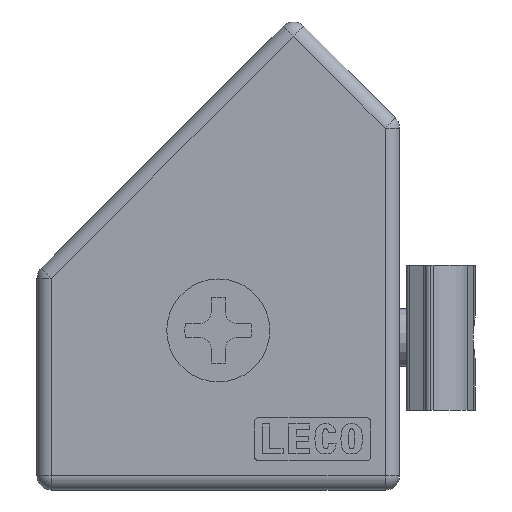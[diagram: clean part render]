
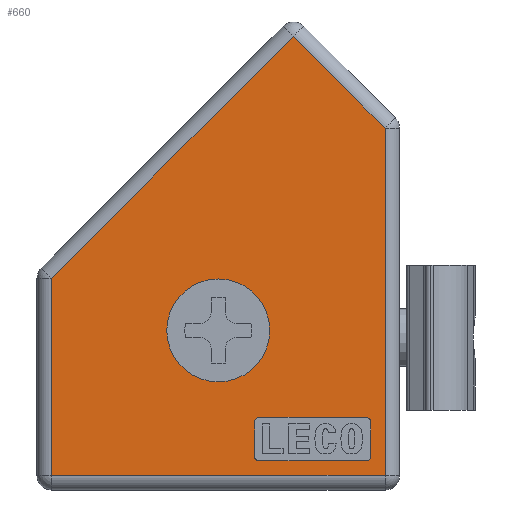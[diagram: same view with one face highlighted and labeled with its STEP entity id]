
A CAD part, front view. The second image highlights one B-rep face of the part: STEP entity #660.
In plain terms, the highlighted planar face has unit normal (0, -1, 0) as drawn and (0, 0, 1) by its records, which use the part's own axes.
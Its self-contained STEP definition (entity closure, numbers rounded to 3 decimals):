
#660=ADVANCED_FACE('',(#1543,#1544,#1545),#1546,.T.);
#1543=FACE_OUTER_BOUND('',#2706,.T.);
#1544=FACE_BOUND('',#2707,.T.);
#1545=FACE_BOUND('',#2708,.T.);
#1546=PLANE('',#2709);
#2706=EDGE_LOOP('',(#4372,#4373,#4374,#4375,#4376));
#2707=EDGE_LOOP('',(#4377));
#2708=EDGE_LOOP('',(#4378,#4379,#4380,#4381,#4382,#4383,#4384,#4385));
#2709=AXIS2_PLACEMENT_3D('',#4386,#4387,#4388);
#4372=ORIENTED_EDGE('',*,*,#7548,.T.);
#4373=ORIENTED_EDGE('',*,*,#7549,.T.);
#4374=ORIENTED_EDGE('',*,*,#7265,.T.);
#4375=ORIENTED_EDGE('',*,*,#7550,.T.);
#4376=ORIENTED_EDGE('',*,*,#7247,.T.);
#4377=ORIENTED_EDGE('',*,*,#7166,.F.);
#4378=ORIENTED_EDGE('',*,*,#7551,.F.);
#4379=ORIENTED_EDGE('',*,*,#7552,.F.);
#4380=ORIENTED_EDGE('',*,*,#7553,.F.);
#4381=ORIENTED_EDGE('',*,*,#7184,.F.);
#4382=ORIENTED_EDGE('',*,*,#7554,.F.);
#4383=ORIENTED_EDGE('',*,*,#7555,.F.);
#4384=ORIENTED_EDGE('',*,*,#7556,.F.);
#4385=ORIENTED_EDGE('',*,*,#7380,.F.);
#4386=CARTESIAN_POINT('',(0.0,0.0,3.0));
#4387=DIRECTION('',(0.0,0.0,1.0));
#4388=DIRECTION('',(1.0,0.0,0.0));
#7166=EDGE_CURVE('',#8600,#8600,#8601,.T.);
#7184=EDGE_CURVE('',#8631,#8633,#8634,.T.);
#7247=EDGE_CURVE('',#8739,#8743,#8745,.T.);
#7265=EDGE_CURVE('',#8774,#8772,#8775,.T.);
#7380=EDGE_CURVE('',#8973,#8975,#8976,.T.);
#7548=EDGE_CURVE('',#8743,#9268,#9269,.T.);
#7549=EDGE_CURVE('',#9268,#8774,#9270,.T.);
#7550=EDGE_CURVE('',#8772,#8739,#9271,.T.);
#7551=EDGE_CURVE('',#9272,#8973,#9273,.T.);
#7552=EDGE_CURVE('',#9274,#9272,#9275,.T.);
#7553=EDGE_CURVE('',#8633,#9274,#9276,.T.);
#7554=EDGE_CURVE('',#9277,#8631,#9278,.T.);
#7555=EDGE_CURVE('',#9279,#9277,#9280,.T.);
#7556=EDGE_CURVE('',#8975,#9279,#9281,.T.);
#8600=VERTEX_POINT('',#10655);
#8601=CIRCLE('',#10656,3.55);
#8631=VERTEX_POINT('',#10693);
#8633=VERTEX_POINT('',#10696);
#8634=LINE('',#10697,#10698);
#8739=VERTEX_POINT('',#10875);
#8743=VERTEX_POINT('',#10880);
#8745=LINE('',#10882,#10883);
#8772=VERTEX_POINT('',#10915);
#8774=VERTEX_POINT('',#10917);
#8775=LINE('',#10918,#10919);
#8973=VERTEX_POINT('',#11175);
#8975=VERTEX_POINT('',#11178);
#8976=LINE('',#11179,#11180);
#9268=VERTEX_POINT('',#11572);
#9269=LINE('',#11573,#11574);
#9270=LINE('',#11575,#11576);
#9271=LINE('',#11577,#11578);
#9272=VERTEX_POINT('',#11579);
#9273=CIRCLE('',#11580,0.3);
#9274=VERTEX_POINT('',#11581);
#9275=LINE('',#11582,#11583);
#9276=CIRCLE('',#11584,0.3);
#9277=VERTEX_POINT('',#11585);
#9278=CIRCLE('',#11586,0.3);
#9279=VERTEX_POINT('',#11587);
#9280=LINE('',#11588,#11589);
#9281=CIRCLE('',#11590,0.3);
#10655=CARTESIAN_POINT('',(16.05,11.,3.0));
#10656=AXIS2_PLACEMENT_3D('',#13287,#13288,#13289);
#10693=CARTESIAN_POINT('',(15.3,2.,3.0));
#10696=CARTESIAN_POINT('',(22.7,2.,3.0));
#10697=CARTESIAN_POINT('',(15.3,2.,3.0));
#10698=VECTOR('',#13313,1.0);
#10875=CARTESIAN_POINT('',(1.0,1.0,3.0));
#10880=CARTESIAN_POINT('',(24.0,1.0,3.0));
#10882=CARTESIAN_POINT('',(24.0,1.0,3.0));
#10883=VECTOR('',#13397,1.0);
#10915=CARTESIAN_POINT('',(1.0,14.586,3.0));
#10917=CARTESIAN_POINT('',(17.678,31.263,3.0));
#10918=CARTESIAN_POINT('',(1.0,14.586,3.0));
#10919=VECTOR('',#13424,1.0);
#11175=CARTESIAN_POINT('',(22.7,5.,3.0));
#11178=CARTESIAN_POINT('',(15.3,5.,3.0));
#11179=CARTESIAN_POINT('',(22.7,5.,3.0));
#11180=VECTOR('',#13608,1.0);
#11572=CARTESIAN_POINT('',(24.0,24.941,3.0));
#11573=CARTESIAN_POINT('',(24.0,24.941,3.0));
#11574=VECTOR('',#13872,1.0);
#11575=CARTESIAN_POINT('',(17.678,31.263,3.0));
#11576=VECTOR('',#13873,1.0);
#11577=CARTESIAN_POINT('',(1.0,1.0,3.0));
#11578=VECTOR('',#13874,1.0);
#11579=CARTESIAN_POINT('',(23.,4.7,3.0));
#11580=AXIS2_PLACEMENT_3D('',#13875,#13876,#13877);
#11581=CARTESIAN_POINT('',(23.,2.3,3.0));
#11582=CARTESIAN_POINT('',(23.,2.3,3.0));
#11583=VECTOR('',#13878,1.0);
#11584=AXIS2_PLACEMENT_3D('',#13879,#13880,#13881);
#11585=CARTESIAN_POINT('',(15.,2.3,3.0));
#11586=AXIS2_PLACEMENT_3D('',#13882,#13883,#13884);
#11587=CARTESIAN_POINT('',(15.,4.7,3.0));
#11588=CARTESIAN_POINT('',(15.,4.7,3.0));
#11589=VECTOR('',#13885,1.0);
#11590=AXIS2_PLACEMENT_3D('',#13886,#13887,#13888);
#13287=CARTESIAN_POINT('',(12.5,11.,3.0));
#13288=DIRECTION('',(0.0,0.0,1.0));
#13289=DIRECTION('',(1.0,0.0,0.0));
#13313=DIRECTION('',(1.0,0.,0.0));
#13397=DIRECTION('',(1.0,0.0,0.0));
#13424=DIRECTION('',(-0.707,-0.707,0.0));
#13608=DIRECTION('',(-1.0,0.0,0.0));
#13872=DIRECTION('',(0.0,1.0,0.0));
#13873=DIRECTION('',(-0.707,0.707,0.0));
#13874=DIRECTION('',(0.0,-1.0,0.0));
#13875=CARTESIAN_POINT('',(22.7,4.7,3.0));
#13876=DIRECTION('',(0.0,0.0,1.0));
#13877=DIRECTION('',(1.0,0.0,0.0));
#13878=DIRECTION('',(0.,1.0,0.0));
#13879=CARTESIAN_POINT('',(22.7,2.3,3.0));
#13880=DIRECTION('',(0.0,0.0,1.0));
#13881=DIRECTION('',(1.0,0.0,0.0));
#13882=CARTESIAN_POINT('',(15.3,2.3,3.0));
#13883=DIRECTION('',(0.0,0.0,1.0));
#13884=DIRECTION('',(1.0,0.0,0.0));
#13885=DIRECTION('',(0.0,-1.0,0.0));
#13886=CARTESIAN_POINT('',(15.3,4.7,3.0));
#13887=DIRECTION('',(0.0,0.0,1.0));
#13888=DIRECTION('',(1.0,0.0,0.0));
